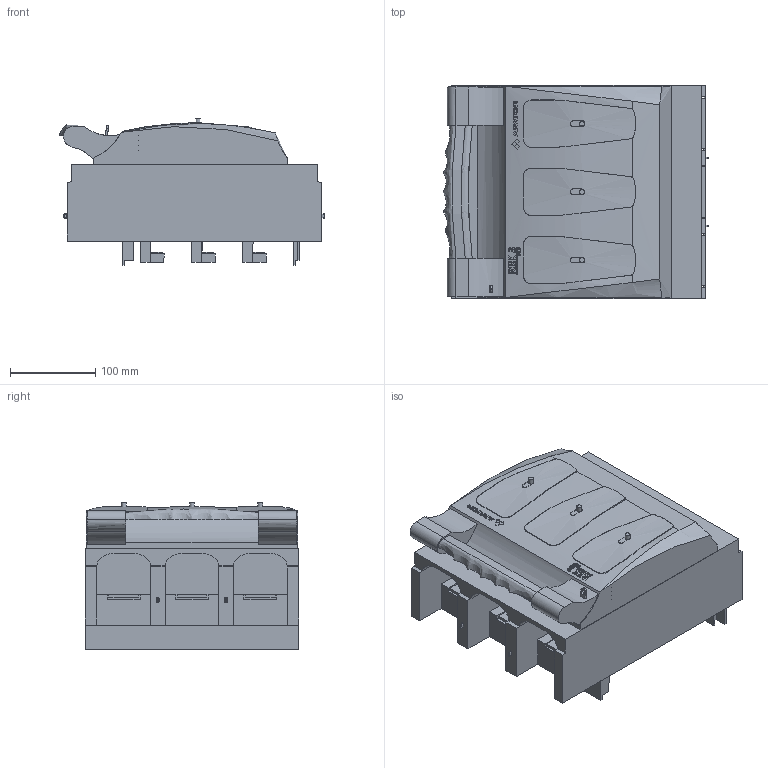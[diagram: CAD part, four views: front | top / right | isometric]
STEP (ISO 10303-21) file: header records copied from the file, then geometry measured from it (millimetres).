
FILE_DESCRIPTION(/* description */ (''),/* implementation_level */ '2;1');
FILE_NAME(/* name */ 'RBK 3 pro-SG - 63-028802-002.stp',/* time_stamp */ '2019-03-15T08:42:33+01:00',/* author */ (''),/* organization */ (''),/* preprocessor_version */ 'ST-DEVELOPER v16',/* originating_system */ 'SIEMENS PLM Software NX 10.0',/* authorisation */ '');
FILE_SCHEMA (('AUTOMOTIVE_DESIGN { 1 0 10303 214 3 1 1 1 }'));
Products named in the file (1): 710_2014EB00ebhy
Bounding box: 311.67 x 250 x 172.2 mm (x, y, z)
Volume: 7593101.6 mm3; surface area: 455540.3 mm2
Topology: 1 solids, 5 shells, 1288 faces, 3647 edges, 2401 vertices
Faces by surface type: extrusion 653, plane 374, cylinder 160, bspline 47, sphere 20, cone 18, torus 16
Full cylindrical faces by diameter (mm): 11.105 x4
Entity records: 52614 total; most frequent: CARTESIAN_POINT 18349, ORIENTED_EDGE 7250, DIRECTION 6223, EDGE_CURVE 3625, VECTOR 3163, LINE 2510, VERTEX_POINT 2407, AXIS2_PLACEMENT_3D 1530
